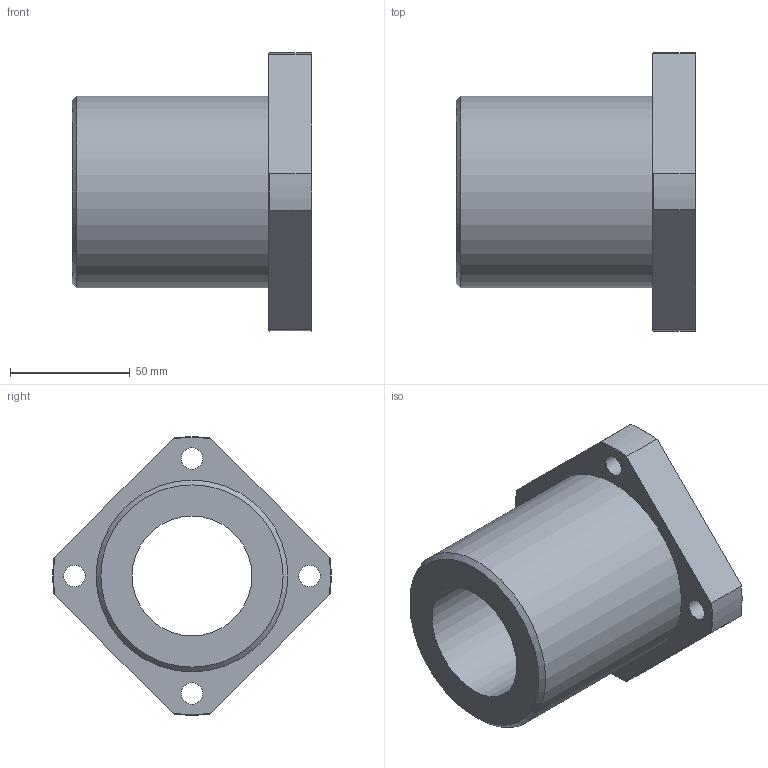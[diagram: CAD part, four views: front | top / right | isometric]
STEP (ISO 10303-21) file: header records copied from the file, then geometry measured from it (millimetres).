
FILE_DESCRIPTION(('STEP AP203'),'1');
FILE_NAME('//192.168.1.1/share/s-4 技術開発/s-4-4_CAD/s-4-4-3_見直し済み/PBC LINEAR修正済み/3D途中/SFPJ/SFPJ/SFPJ50.step','2022-03-24T05:47:29',(' '),(' '),'Spatial InterOp 3D',' ',' ');
FILE_SCHEMA(('CONFIG_CONTROL_DESIGN'));
Length unit declared in the file: millimetre
Products named in the file (1): 1
Bounding box: 100 x 115.89 x 115.89 mm (x, y, z)
Volume: 356431.1 mm3; surface area: 56796.3 mm2
Topology: 1 solids, 1 shells, 34 faces, 84 edges, 57 vertices
Faces by surface type: cylinder 14, plane 11, cone 9
Full cylindrical faces by diameter (mm): 9 x4, 14 x4, 50 x1, 80 x1
Entity records: 1018 total; most frequent: CARTESIAN_POINT 205, DIRECTION 160, ORIENTED_EDGE 138, AXIS2_PLACEMENT_3D 72, EDGE_CURVE 69, EDGE_LOOP 60, VERTEX_POINT 53, FACE_OUTER_BOUND 44
